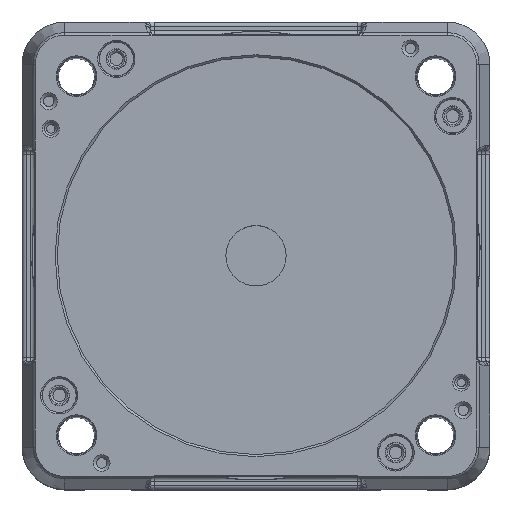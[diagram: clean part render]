
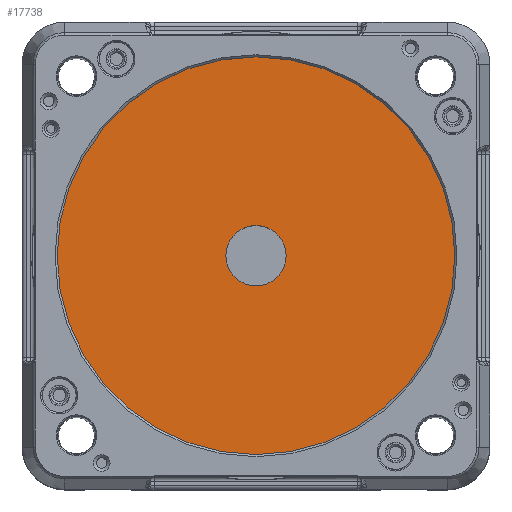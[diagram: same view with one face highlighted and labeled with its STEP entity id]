
A CAD part, top view. The second image highlights one B-rep face of the part: STEP entity #17738.
In plain terms, the highlighted planar face has unit normal (0, 0, 1) as drawn and (0, 0, -1) by its records, which use the part's own axes.
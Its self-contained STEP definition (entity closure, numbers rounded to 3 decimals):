
#11993=CARTESIAN_POINT('',(7.122,0.,-7.5));
#11994=VERTEX_POINT('',#11993);
#11995=CARTESIAN_POINT('',(0.,0.,-7.5));
#11996=DIRECTION('',(0.0,0.0,1.0));
#11997=DIRECTION('',(-1.0,0.0,0.0));
#11998=AXIS2_PLACEMENT_3D('',#11995,#11996,#11997);
#11999=CIRCLE('',#11998,7.122);
#12000=EDGE_CURVE('',#11994,#11994,#11999,.T.);
#12260=CARTESIAN_POINT('',(-47.0,0.,-7.5));
#12261=VERTEX_POINT('',#12260);
#12262=CARTESIAN_POINT('',(0.0,0.0,-7.5));
#12263=DIRECTION('',(0.0,0.0,-1.0));
#12264=DIRECTION('',(1.0,0.0,0.0));
#12265=AXIS2_PLACEMENT_3D('',#12262,#12263,#12264);
#12266=CIRCLE('',#12265,47.0);
#12267=EDGE_CURVE('',#12261,#12261,#12266,.T.);
#17727=CARTESIAN_POINT('',(0.0,0.0,-7.5));
#17728=DIRECTION('',(0.0,0.0,1.0));
#17729=DIRECTION('',(1.0,0.0,0.0));
#17730=AXIS2_PLACEMENT_3D('',#17727,#17728,#17729);
#17731=PLANE('',#17730);
#17732=ORIENTED_EDGE('',*,*,#12267,.T.);
#17733=EDGE_LOOP('',(#17732));
#17734=FACE_OUTER_BOUND('',#17733,.T.);
#17735=ORIENTED_EDGE('',*,*,#12000,.T.);
#17736=EDGE_LOOP('',(#17735));
#17737=FACE_BOUND('',#17736,.T.);
#17738=ADVANCED_FACE('',(#17734,#17737),#17731,.F.);
